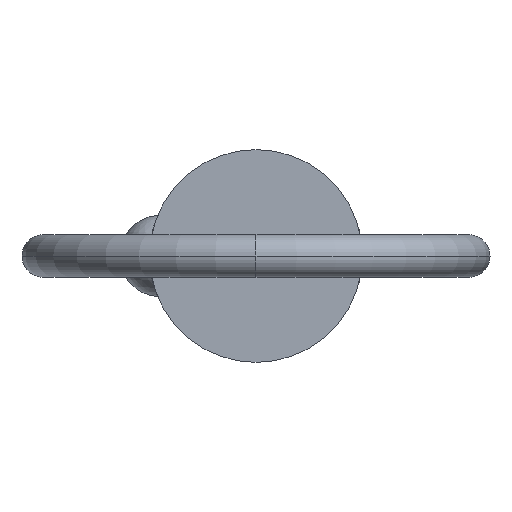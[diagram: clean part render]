
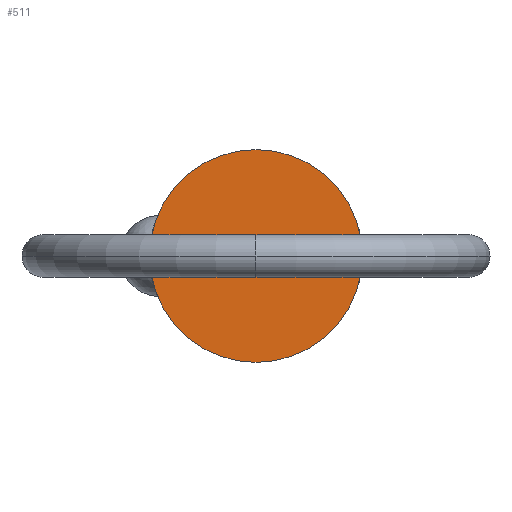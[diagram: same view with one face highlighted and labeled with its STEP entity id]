
A CAD part, left-side view. The second image highlights one B-rep face of the part: STEP entity #511.
In plain terms, the highlighted planar face has unit normal (-1, 0, 0).
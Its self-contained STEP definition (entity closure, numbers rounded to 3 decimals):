
#4 = PLANE ( 'NONE',  #37 ) ;
#37 = AXIS2_PLACEMENT_3D ( 'NONE', #372, #85, #504 ) ;
#63 = EDGE_CURVE ( 'NONE', #599, #478, #692, .T. ) ;
#69 = DIRECTION ( 'NONE',  ( 0., 0., -1. ) ) ;
#85 = DIRECTION ( 'NONE',  ( -1., 0., 0. ) ) ;
#89 = EDGE_CURVE ( 'NONE', #478, #599, #441, .T. ) ;
#91 = AXIS2_PLACEMENT_3D ( 'NONE', #491, #623, #565 ) ;
#229 = CARTESIAN_POINT ( 'NONE',  ( 0., 0., -9.525 ) ) ;
#234 = CARTESIAN_POINT ( 'NONE',  ( 0., 0., 9.525 ) ) ;
#273 = DIRECTION ( 'NONE',  ( 1., 0., 0. ) ) ;
#328 = ORIENTED_EDGE ( 'NONE', *, *, #89, .F. ) ;
#372 = CARTESIAN_POINT ( 'NONE',  ( 0., 0., 0. ) ) ;
#441 = CIRCLE ( 'NONE', #863, 9.525 ) ;
#478 = VERTEX_POINT ( 'NONE', #229 ) ;
#491 = CARTESIAN_POINT ( 'NONE',  ( 0., 0., 0. ) ) ;
#504 = DIRECTION ( 'NONE',  ( 0., 0., 1. ) ) ;
#511 = ADVANCED_FACE ( 'NONE', ( #577 ), #4, .T. ) ;
#529 = EDGE_LOOP ( 'NONE', ( #328, #792 ) ) ;
#565 = DIRECTION ( 'NONE',  ( 0., 0., -1. ) ) ;
#577 = FACE_OUTER_BOUND ( 'NONE', #529, .T. ) ;
#599 = VERTEX_POINT ( 'NONE', #234 ) ;
#623 = DIRECTION ( 'NONE',  ( 1., 0., 0. ) ) ;
#692 = CIRCLE ( 'NONE', #91, 9.525 ) ;
#780 = CARTESIAN_POINT ( 'NONE',  ( 0., 0., 0. ) ) ;
#792 = ORIENTED_EDGE ( 'NONE', *, *, #63, .F. ) ;
#863 = AXIS2_PLACEMENT_3D ( 'NONE', #780, #273, #69 ) ;
